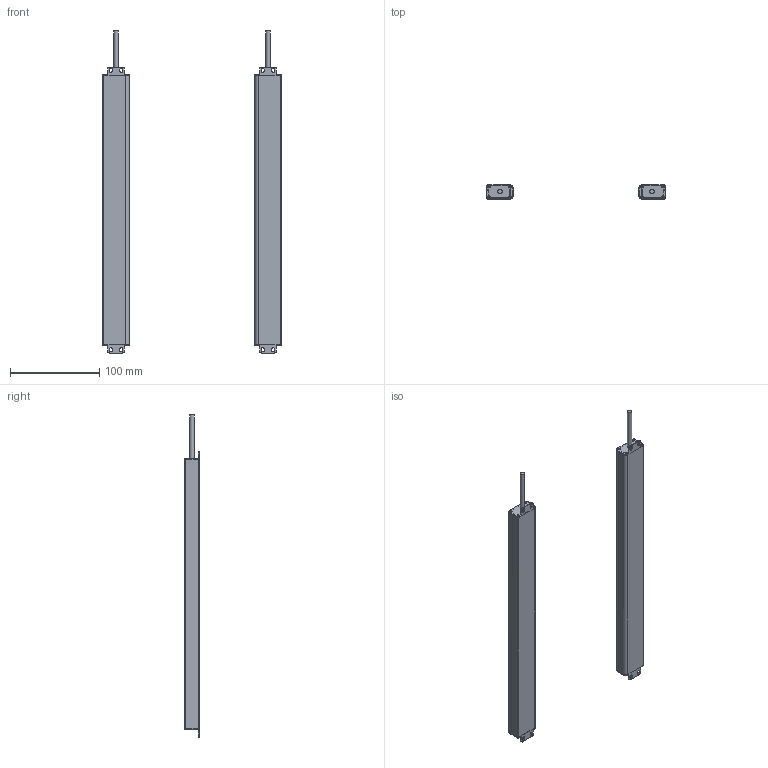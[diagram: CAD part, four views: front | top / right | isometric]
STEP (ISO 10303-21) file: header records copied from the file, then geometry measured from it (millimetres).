
FILE_DESCRIPTION(/* description */ (''),/* implementation_level */ '2;1');
FILE_NAME(/* name */ '3010（16X30w).stp',/* time_stamp */ '2020-09-24T18:38:09+08:00',/* author */ (''),/* organization */ (''),/* preprocessor_version */ 'ST-DEVELOPER v16',/* originating_system */ 'SIEMENS PLM Software NX 10.0',/* authorisation */ '');
FILE_SCHEMA (('AP203_CONFIGURATION_CONTROLLED_3D_DESIGN_OF_MECHANICAL_PARTS_AND_ASSEMBLIES_MIM_LF { 1 0 10303 403 2 1 2}'));
Length unit declared in the file: millimetre
Products named in the file (1): Admi073CA846p3fl
Bounding box: 200 x 16 x 361.5 mm (x, y, z)
Volume: 89413.6 mm3; surface area: 132680.5 mm2
Topology: 10 solids, 10 shells, 296 faces, 830 edges, 554 vertices
Faces by surface type: plane 160, cylinder 136
Full cylindrical faces by diameter (mm): 5 x2
Entity records: 9760 total; most frequent: DIRECTION 1692, CARTESIAN_POINT 1675, ORIENTED_EDGE 1652, EDGE_CURVE 826, AXIS2_PLACEMENT_3D 569, LINE 554, VECTOR 554, VERTEX_POINT 552
